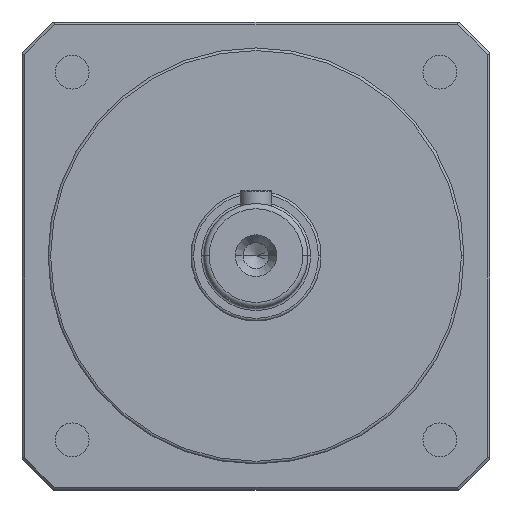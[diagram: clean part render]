
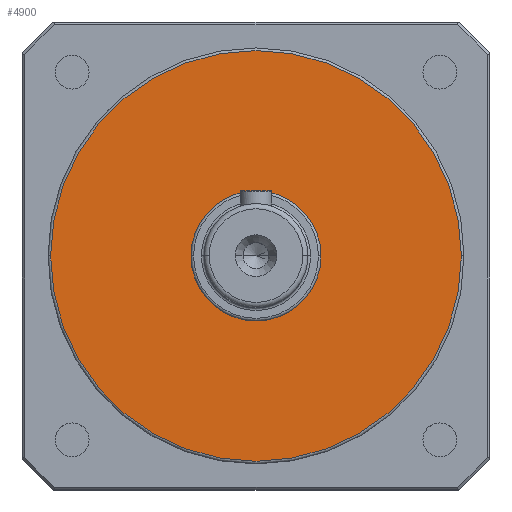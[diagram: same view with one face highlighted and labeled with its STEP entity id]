
A CAD part, top view. The second image highlights one B-rep face of the part: STEP entity #4900.
In plain terms, the highlighted planar face has unit normal (0, 0, 1).
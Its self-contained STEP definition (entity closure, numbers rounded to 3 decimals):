
#3 = VERTEX_POINT ( 'NONE', #3440 ) ;
#62 = ORIENTED_EDGE ( 'NONE', *, *, #7064, .T. ) ;
#123 = EDGE_LOOP ( 'NONE', ( #439, #62 ) ) ;
#224 = CARTESIAN_POINT ( 'NONE',  ( 0., 0., 3. ) ) ;
#268 = PLANE ( 'NONE',  #5879 ) ;
#399 = CIRCLE ( 'NONE', #6609, 39.5 ) ;
#439 = ORIENTED_EDGE ( 'NONE', *, *, #897, .T. ) ;
#739 = VERTEX_POINT ( 'NONE', #1314 ) ;
#857 = CIRCLE ( 'NONE', #1485, 39.5 ) ;
#897 = EDGE_CURVE ( 'NONE', #5859, #739, #857, .T. ) ;
#1045 = CARTESIAN_POINT ( 'NONE',  ( 39.5, 0., 3. ) ) ;
#1106 = DIRECTION ( 'NONE',  ( 1., 0., 0. ) ) ;
#1314 = CARTESIAN_POINT ( 'NONE',  ( -39.5, 0., 3. ) ) ;
#1485 = AXIS2_PLACEMENT_3D ( 'NONE', #2928, #6536, #4653 ) ;
#1546 = CARTESIAN_POINT ( 'NONE',  ( 0., 0., 3. ) ) ;
#1612 = EDGE_LOOP ( 'NONE', ( #3234, #4150 ) ) ;
#1668 = AXIS2_PLACEMENT_3D ( 'NONE', #224, #3906, #3817 ) ;
#2880 = CARTESIAN_POINT ( 'NONE',  ( 0., 0., 3. ) ) ;
#2928 = CARTESIAN_POINT ( 'NONE',  ( 0., 0., 3. ) ) ;
#3234 = ORIENTED_EDGE ( 'NONE', *, *, #5597, .F. ) ;
#3328 = DIRECTION ( 'NONE',  ( 0., 0., 1. ) ) ;
#3440 = CARTESIAN_POINT ( 'NONE',  ( 12.5, 0., 3. ) ) ;
#3521 = EDGE_CURVE ( 'NONE', #6645, #3, #6138, .T. ) ;
#3817 = DIRECTION ( 'NONE',  ( 1., 0., 0. ) ) ;
#3893 = DIRECTION ( 'NONE',  ( 1., 0., 0. ) ) ;
#3906 = DIRECTION ( 'NONE',  ( 0., 0., 1. ) ) ;
#3915 = FACE_BOUND ( 'NONE', #1612, .T. ) ;
#4119 = CARTESIAN_POINT ( 'NONE',  ( -12.5, 0., 3. ) ) ;
#4150 = ORIENTED_EDGE ( 'NONE', *, *, #3521, .F. ) ;
#4573 = DIRECTION ( 'NONE',  ( 1., 0., 0. ) ) ;
#4653 = DIRECTION ( 'NONE',  ( 1., 0., 0. ) ) ;
#4900 = ADVANCED_FACE ( 'NONE', ( #3915, #5622 ), #268, .T. ) ;
#5330 = DIRECTION ( 'NONE',  ( 0., 0., 1. ) ) ;
#5561 = CARTESIAN_POINT ( 'NONE',  ( 0., 0., 3. ) ) ;
#5597 = EDGE_CURVE ( 'NONE', #3, #6645, #7594, .T. ) ;
#5622 = FACE_OUTER_BOUND ( 'NONE', #123, .T. ) ;
#5859 = VERTEX_POINT ( 'NONE', #1045 ) ;
#5879 = AXIS2_PLACEMENT_3D ( 'NONE', #1546, #3328, #4573 ) ;
#6138 = CIRCLE ( 'NONE', #7000, 12.5 ) ;
#6183 = DIRECTION ( 'NONE',  ( 0., 0., 1. ) ) ;
#6536 = DIRECTION ( 'NONE',  ( 0., 0., 1. ) ) ;
#6609 = AXIS2_PLACEMENT_3D ( 'NONE', #2880, #5330, #1106 ) ;
#6645 = VERTEX_POINT ( 'NONE', #4119 ) ;
#7000 = AXIS2_PLACEMENT_3D ( 'NONE', #5561, #6183, #3893 ) ;
#7064 = EDGE_CURVE ( 'NONE', #739, #5859, #399, .T. ) ;
#7594 = CIRCLE ( 'NONE', #1668, 12.5 ) ;
